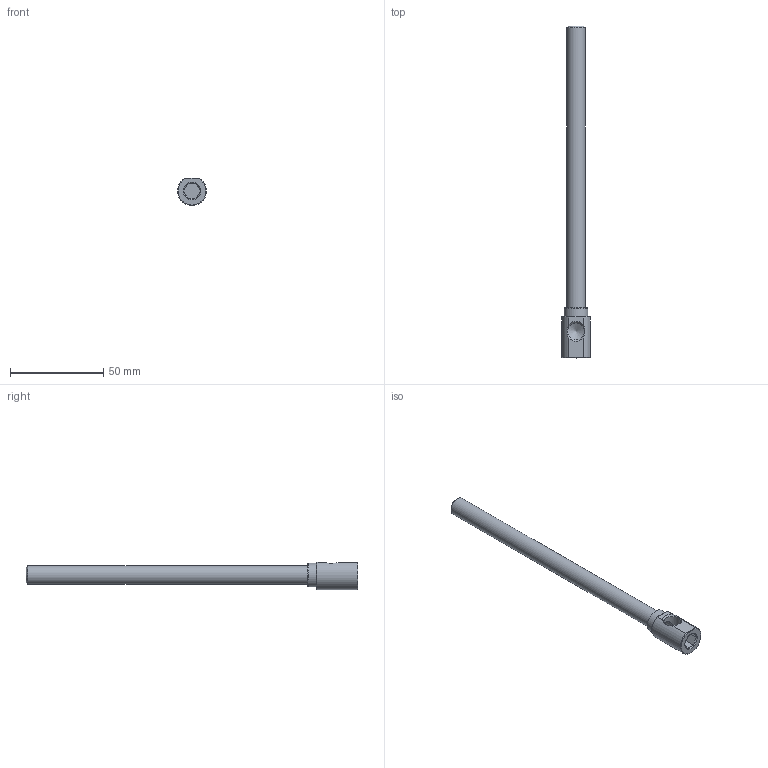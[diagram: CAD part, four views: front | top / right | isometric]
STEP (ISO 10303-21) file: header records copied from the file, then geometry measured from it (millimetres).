
FILE_DESCRIPTION(/* description */ (''),/* implementation_level */ '2;1');
FILE_NAME(/* name */ 'C:/Users/drich/Desktop/EKL18 X 7 v1.step',/* time_stamp */ '2019-11-18T14:40:01-06:00',/* author */ (''),/* organization */ (''),/* preprocessor_version */ 'ST-DEVELOPER v18',/* originating_system */ 'Autodesk Translation Framework v8.12.0.6',/* authorisation */ '');
FILE_SCHEMA (('AUTOMOTIVE_DESIGN { 1 0 10303 214 3 1 1 }'));
Length unit declared in the file: inch
Products named in the file (2): EKL18 X 7; EKL18 X 7_1
Assembly tree (1 placements, depth 2):
  EKL18 X 7
    EKL18 X 7_1
Bounding box: 15.49 x 177.8 x 14.48 mm (x, y, z)
Volume: 9797.1 mm3; surface area: 9873.7 mm2
Topology: 1 solids, 1 shells, 30 faces, 80 edges, 55 vertices
Faces by surface type: plane 16, cone 8, cylinder 6
Full cylindrical faces by diameter (mm): 6.35 x1, 9.004 x1, 9.398 x1, 9.794 x1, 12.7 x1
Entity records: 1047 total; most frequent: CARTESIAN_POINT 256, ORIENTED_EDGE 158, DIRECTION 151, EDGE_CURVE 79, AXIS2_PLACEMENT_3D 60, VERTEX_POINT 55, EDGE_LOOP 36, LINE 31
